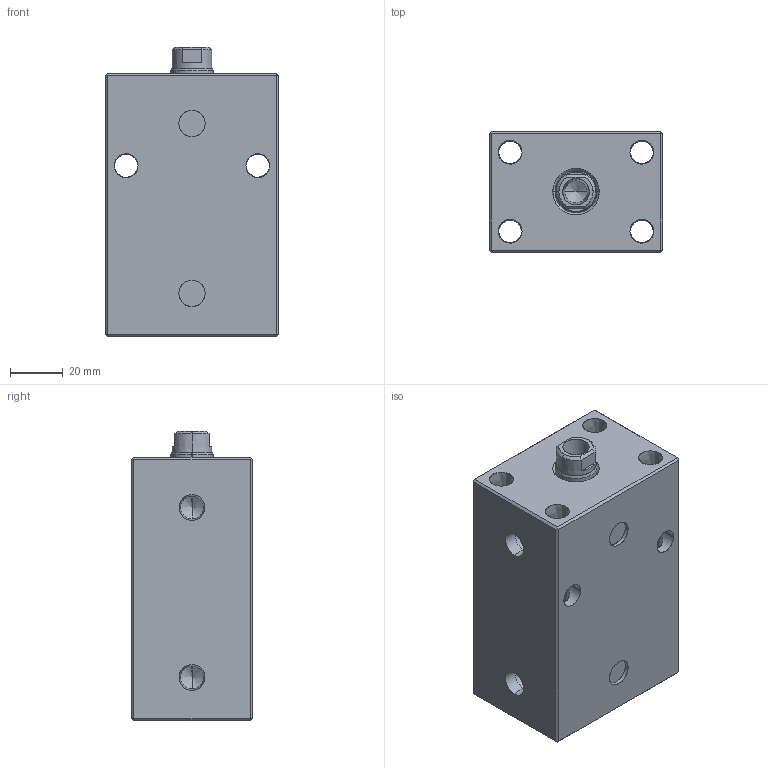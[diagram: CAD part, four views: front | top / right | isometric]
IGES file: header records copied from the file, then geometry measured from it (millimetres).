
Start section: SolidWorks IGES file using analytic representation for surfaces
Global section: file name: E:\ALL-SSVT-BLOCK\IGSMODEL-25-BORE\BC04-25-50 F.IGS; native system: SolidWorks 2019; preprocessor: SolidWorks 2019; author: SSVT; date: 210824.091733; units: millimetre
Bounding box: 66 x 46 x 110 mm (x, y, z)
Surface area: 50753.3 mm2 (no closed solid volume)
Topology: 0 solids, 0 shells, 99 faces, 1737 edges, 1731 vertices
Faces by surface type: revolution 63, bspline 36
